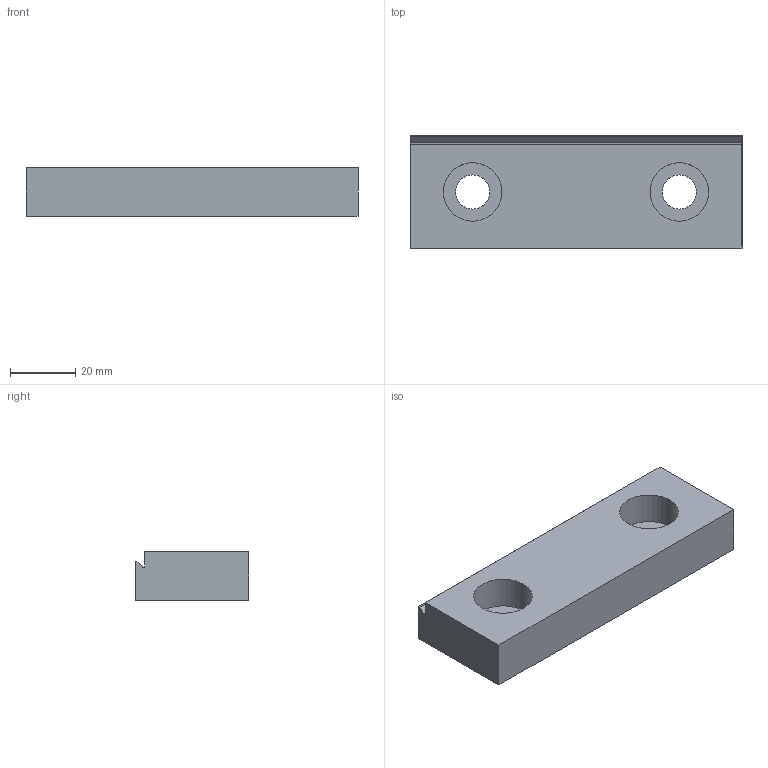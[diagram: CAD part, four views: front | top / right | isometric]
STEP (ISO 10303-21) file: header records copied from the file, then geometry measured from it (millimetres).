
FILE_DESCRIPTION (( 'STEP AP214' ), '1' );
FILE_NAME ('HMVJ-4DS [05-0229 ref].step', '2023-05-02T20:45:26', ( '' ), ( '' ), 'SwSTEP 2.0', 'SolidWorks 2022', '' );
FILE_SCHEMA (( 'AUTOMOTIVE_DESIGN' ));
Length unit declared in the file: millimetre
Products named in the file (1): HMVJ-4DS [05-0229 ref]
Bounding box: 102 x 35 x 15 mm (x, y, z)
Volume: 46403.1 mm3; surface area: 12586.4 mm2
Topology: 1 solids, 1 shells, 20 faces, 48 edges, 32 vertices
Faces by surface type: plane 11, cylinder 9
Entity records: 786 total; most frequent: DIRECTION 108, CARTESIAN_POINT 101, ORIENTED_EDGE 96, EDGE_CURVE 48, AXIS2_PLACEMENT_3D 39, VERTEX_POINT 32, LINE 30, VECTOR 30
